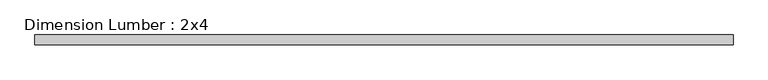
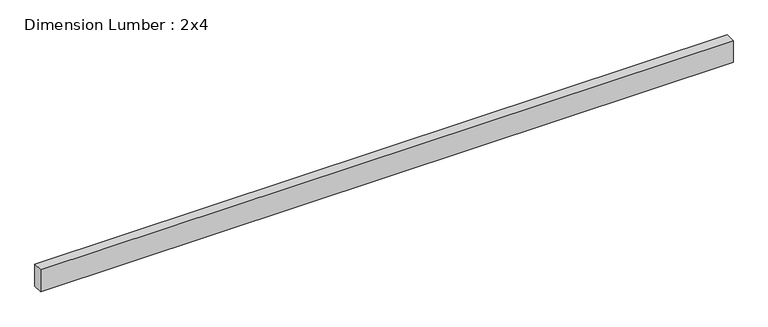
"""IFC4 building model written with IfcOpenShell, lengths in millimetres: beam geometry, Dimension Lumber : 2x4."""

from ifc_helpers import new_model, si_unit, frame, origin, place, context, project, spatial, polyline, outline, extrude, source, transform, mapped, element, save


def dimension_lumber_2x4_453c5e2a(model_context):
    return source(origin(), model_context, "Body", "SweptSolid", [
        extrude(outline(polyline([(1333.5, -19.05), (-1333.5, -19.05), (-1333.5, 19.05), (1333.5, 19.05), (1333.5, -19.05)])), frame((0.0, 0.0, -44.45), z_axis=(0.0, 0.0, 1.0), x_axis=(1.0, 0.0, 0.0)), (0.0, 0.0, 1.0), 88.9),
    ])


if __name__ == "__main__":
    model = new_model("IFC4")
    model_context = context("Model", 3, world=origin())
    ifc_project = project(units=[si_unit("LENGTHUNIT", "METRE", prefix="MILLI")], contexts=[model_context])
    site = spatial("IfcSite", under=ifc_project)
    building = spatial("IfcBuilding", under=site)
    placement = place(None, origin())
    dimension_lumber_2x4_shape = dimension_lumber_2x4_453c5e2a(model_context)
    element("IfcBeam", 1, ObjectType="Dimension Lumber : 2x4", at=placement, inside=building, context=model_context, shape_type="MappedRepresentation", body=[
        mapped(dimension_lumber_2x4_shape, transform((0.0, 0.0, 0.0), x_axis=(1.0, 0.0, 0.0), y_axis=(0.0, 1.0, 0.0), z_axis=(0.0, 0.0, 1.0))),
    ])
    save(model, "model.ifc")
